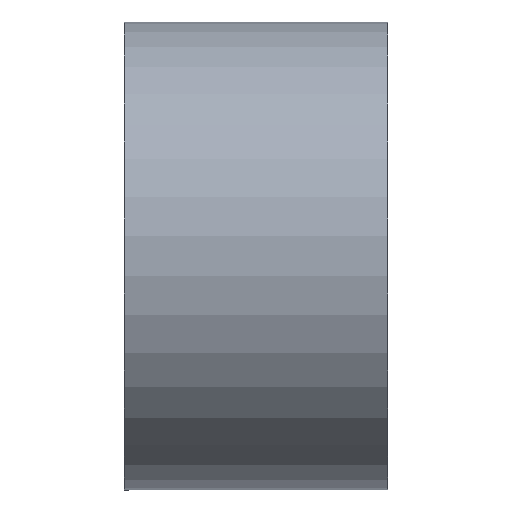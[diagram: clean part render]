
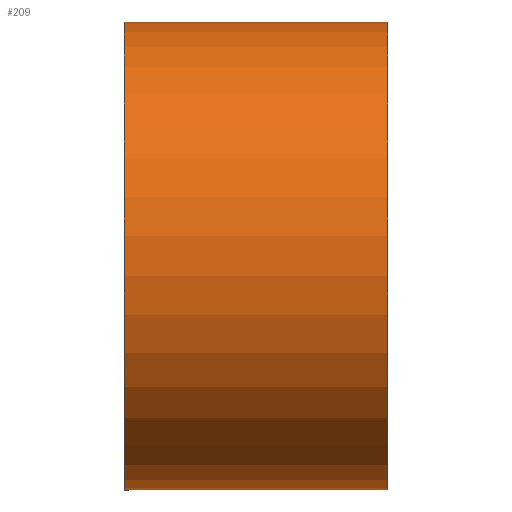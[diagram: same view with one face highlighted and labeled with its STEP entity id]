
A CAD part, left-side view. The second image highlights one B-rep face of the part: STEP entity #209.
In plain terms, the highlighted cylindrical face has radius 8 mm (diameter 16 mm), a partial arc.
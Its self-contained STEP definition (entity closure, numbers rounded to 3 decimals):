
#21 = EDGE_CURVE('',#22,#24,#26,.T.);
#22 = VERTEX_POINT('',#23);
#23 = CARTESIAN_POINT('',(6.245,46.,-5.));
#24 = VERTEX_POINT('',#25);
#25 = CARTESIAN_POINT('',(6.245,46.,5.));
#26 = SURFACE_CURVE('',#27,(#32,#48),.PCURVE_S1.);
#27 = CIRCLE('',#28,8.);
#28 = AXIS2_PLACEMENT_3D('',#29,#30,#31);
#29 = CARTESIAN_POINT('',(0.,46.,0.));
#30 = DIRECTION('',(0.,1.,0.));
#31 = DIRECTION('',(0.781,0.,-0.625));
#32 = PCURVE('',#33,#38);
#33 = PLANE('',#34);
#34 = AXIS2_PLACEMENT_3D('',#35,#36,#37);
#35 = CARTESIAN_POINT('',(37.5,46.,0.));
#36 = DIRECTION('',(-0.,-1.,-0.));
#37 = DIRECTION('',(0.,0.,-1.));
#38 = DEFINITIONAL_REPRESENTATION('',(#39),#47);
#39 = ( BOUNDED_CURVE() B_SPLINE_CURVE(2,(#40,#41,#42,#43,#44,#45,#46),
.UNSPECIFIED.,.T.,.F.) B_SPLINE_CURVE_WITH_KNOTS((1,2,2,2,2,1),(
    -2.094,0.,2.094,4.189,6.283,
8.378),.UNSPECIFIED.) CURVE() GEOMETRIC_REPRESENTATION_ITEM() 
RATIONAL_B_SPLINE_CURVE((1.,0.5,1.,0.5,1.,0.5,1.)) REPRESENTATION_ITEM(
  '') );
#40 = CARTESIAN_POINT('',(5.,-31.255));
#41 = CARTESIAN_POINT('',(15.817,-39.915));
#42 = CARTESIAN_POINT('',(2.908,-44.953));
#43 = CARTESIAN_POINT('',(-10.,-49.99));
#44 = CARTESIAN_POINT('',(-7.908,-36.292));
#45 = CARTESIAN_POINT('',(-5.817,-22.595));
#46 = CARTESIAN_POINT('',(5.,-31.255));
#47 = ( GEOMETRIC_REPRESENTATION_CONTEXT(2) 
PARAMETRIC_REPRESENTATION_CONTEXT() REPRESENTATION_CONTEXT('2D SPACE',''
  ) );
#48 = PCURVE('',#49,#54);
#49 = CYLINDRICAL_SURFACE('',#50,8.);
#50 = AXIS2_PLACEMENT_3D('',#51,#52,#53);
#51 = CARTESIAN_POINT('',(0.,37.,0.));
#52 = DIRECTION('',(0.,-1.,-0.));
#53 = DIRECTION('',(1.,0.,0.));
#54 = DEFINITIONAL_REPRESENTATION('',(#55),#59);
#55 = LINE('',#56,#57);
#56 = CARTESIAN_POINT('',(-0.675,-9.));
#57 = VECTOR('',#58,1.);
#58 = DIRECTION('',(-1.,0.));
#59 = ( GEOMETRIC_REPRESENTATION_CONTEXT(2) 
PARAMETRIC_REPRESENTATION_CONTEXT() REPRESENTATION_CONTEXT('2D SPACE',''
  ) );
#77 = PLANE('',#78);
#78 = AXIS2_PLACEMENT_3D('',#79,#80,#81);
#79 = CARTESIAN_POINT('',(-10.,37.,-5.));
#80 = DIRECTION('',(0.,0.,1.));
#81 = DIRECTION('',(1.,0.,0.));
#136 = PLANE('',#137);
#137 = AXIS2_PLACEMENT_3D('',#138,#139,#140);
#138 = CARTESIAN_POINT('',(-10.,37.,5.));
#139 = DIRECTION('',(0.,0.,1.));
#140 = DIRECTION('',(1.,0.,0.));
#209 = ADVANCED_FACE('',(#210),#49,.T.);
#210 = FACE_BOUND('',#211,.F.);
#211 = EDGE_LOOP('',(#212,#243,#262,#263));
#212 = ORIENTED_EDGE('',*,*,#213,.F.);
#213 = EDGE_CURVE('',#214,#216,#218,.T.);
#214 = VERTEX_POINT('',#215);
#215 = CARTESIAN_POINT('',(6.245,37.,-5.));
#216 = VERTEX_POINT('',#217);
#217 = CARTESIAN_POINT('',(6.245,37.,5.));
#218 = SURFACE_CURVE('',#219,(#224,#231),.PCURVE_S1.);
#219 = CIRCLE('',#220,8.);
#220 = AXIS2_PLACEMENT_3D('',#221,#222,#223);
#221 = CARTESIAN_POINT('',(0.,37.,0.));
#222 = DIRECTION('',(0.,1.,0.));
#223 = DIRECTION('',(0.781,0.,-0.625));
#224 = PCURVE('',#49,#225);
#225 = DEFINITIONAL_REPRESENTATION('',(#226),#230);
#226 = LINE('',#227,#228);
#227 = CARTESIAN_POINT('',(-0.675,0.));
#228 = VECTOR('',#229,1.);
#229 = DIRECTION('',(-1.,0.));
#230 = ( GEOMETRIC_REPRESENTATION_CONTEXT(2) 
PARAMETRIC_REPRESENTATION_CONTEXT() REPRESENTATION_CONTEXT('2D SPACE',''
  ) );
#231 = PCURVE('',#232,#237);
#232 = PLANE('',#233);
#233 = AXIS2_PLACEMENT_3D('',#234,#235,#236);
#234 = CARTESIAN_POINT('',(0.,37.,0.));
#235 = DIRECTION('',(0.,1.,0.));
#236 = DIRECTION('',(0.,-0.,1.));
#237 = DEFINITIONAL_REPRESENTATION('',(#238),#242);
#238 = CIRCLE('',#239,8.);
#239 = AXIS2_PLACEMENT_2D('',#240,#241);
#240 = CARTESIAN_POINT('',(0.,0.));
#241 = DIRECTION('',(-0.625,0.781));
#242 = ( GEOMETRIC_REPRESENTATION_CONTEXT(2) 
PARAMETRIC_REPRESENTATION_CONTEXT() REPRESENTATION_CONTEXT('2D SPACE',''
  ) );
#243 = ORIENTED_EDGE('',*,*,#244,.F.);
#244 = EDGE_CURVE('',#22,#214,#245,.T.);
#245 = SURFACE_CURVE('',#246,(#250,#256),.PCURVE_S1.);
#246 = LINE('',#247,#248);
#247 = CARTESIAN_POINT('',(6.245,37.,-5.));
#248 = VECTOR('',#249,1.);
#249 = DIRECTION('',(0.,-1.,-0.));
#250 = PCURVE('',#49,#251);
#251 = DEFINITIONAL_REPRESENTATION('',(#252),#255);
#252 = B_SPLINE_CURVE_WITH_KNOTS('',1,(#253,#254),.UNSPECIFIED.,.F.,.F.,
  (2,2),(-9.,0.),.PIECEWISE_BEZIER_KNOTS.);
#253 = CARTESIAN_POINT('',(-0.675,-9.));
#254 = CARTESIAN_POINT('',(-0.675,0.));
#255 = ( GEOMETRIC_REPRESENTATION_CONTEXT(2) 
PARAMETRIC_REPRESENTATION_CONTEXT() REPRESENTATION_CONTEXT('2D SPACE',''
  ) );
#256 = PCURVE('',#77,#257);
#257 = DEFINITIONAL_REPRESENTATION('',(#258),#261);
#258 = B_SPLINE_CURVE_WITH_KNOTS('',1,(#259,#260),.UNSPECIFIED.,.F.,.F.,
  (2,2),(-9.,0.),.PIECEWISE_BEZIER_KNOTS.);
#259 = CARTESIAN_POINT('',(16.245,9.));
#260 = CARTESIAN_POINT('',(16.245,0.));
#261 = ( GEOMETRIC_REPRESENTATION_CONTEXT(2) 
PARAMETRIC_REPRESENTATION_CONTEXT() REPRESENTATION_CONTEXT('2D SPACE',''
  ) );
#262 = ORIENTED_EDGE('',*,*,#21,.T.);
#263 = ORIENTED_EDGE('',*,*,#264,.T.);
#264 = EDGE_CURVE('',#24,#216,#265,.T.);
#265 = SURFACE_CURVE('',#266,(#270,#276),.PCURVE_S1.);
#266 = LINE('',#267,#268);
#267 = CARTESIAN_POINT('',(6.245,37.,5.));
#268 = VECTOR('',#269,1.);
#269 = DIRECTION('',(0.,-1.,-0.));
#270 = PCURVE('',#49,#271);
#271 = DEFINITIONAL_REPRESENTATION('',(#272),#275);
#272 = B_SPLINE_CURVE_WITH_KNOTS('',1,(#273,#274),.UNSPECIFIED.,.F.,.F.,
  (2,2),(-9.,0.),.PIECEWISE_BEZIER_KNOTS.);
#273 = CARTESIAN_POINT('',(-5.608,-9.));
#274 = CARTESIAN_POINT('',(-5.608,0.));
#275 = ( GEOMETRIC_REPRESENTATION_CONTEXT(2) 
PARAMETRIC_REPRESENTATION_CONTEXT() REPRESENTATION_CONTEXT('2D SPACE',''
  ) );
#276 = PCURVE('',#136,#277);
#277 = DEFINITIONAL_REPRESENTATION('',(#278),#281);
#278 = B_SPLINE_CURVE_WITH_KNOTS('',1,(#279,#280),.UNSPECIFIED.,.F.,.F.,
  (2,2),(-9.,0.),.PIECEWISE_BEZIER_KNOTS.);
#279 = CARTESIAN_POINT('',(16.245,9.));
#280 = CARTESIAN_POINT('',(16.245,0.));
#281 = ( GEOMETRIC_REPRESENTATION_CONTEXT(2) 
PARAMETRIC_REPRESENTATION_CONTEXT() REPRESENTATION_CONTEXT('2D SPACE',''
  ) );
